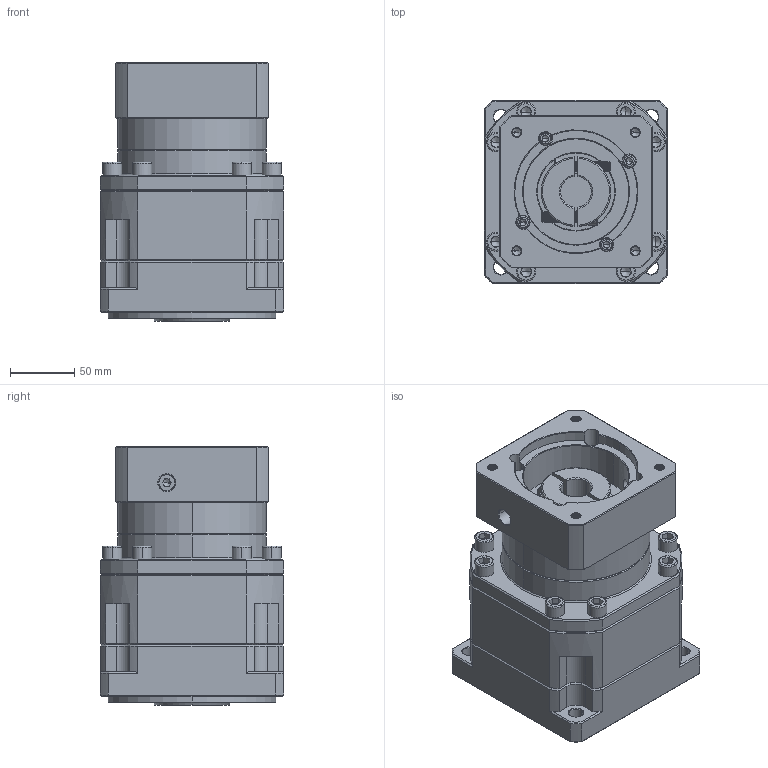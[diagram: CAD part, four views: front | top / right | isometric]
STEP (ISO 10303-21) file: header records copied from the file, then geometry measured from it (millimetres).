
FILE_DESCRIPTION (( 'STEP AP214' ), '1' );
FILE_NAME ('ZB142A-K35-L2-24-95-130-M8.step', '2023-03-18T07:08:20', ( '' ), ( '' ), 'SwSTEP 2.0', 'SolidWorks 2016', '' );
FILE_SCHEMA (( 'AUTOMOTIVE_DESIGN' ));
Length unit declared in the file: millimetre
Products named in the file (1): ZB142A-K35-L2-24-95-130-M8
Bounding box: 142 x 142 x 200.7 mm (x, y, z)
Volume: 2799290.6 mm3; surface area: 233162.7 mm2
Topology: 6 solids, 6 shells, 2212 faces, 5707 edges, 3611 vertices
Faces by surface type: plane 1018, cylinder 456, cone 382, bspline 300, torus 56
Entity records: 113495 total; most frequent: CARTESIAN_POINT 37665, ORIENTED_EDGE 11310, DIRECTION 9663, EDGE_CURVE 5655, VERTEX_POINT 3611, VECTOR 3531, LINE 3531, AXIS2_PLACEMENT_3D 3066
